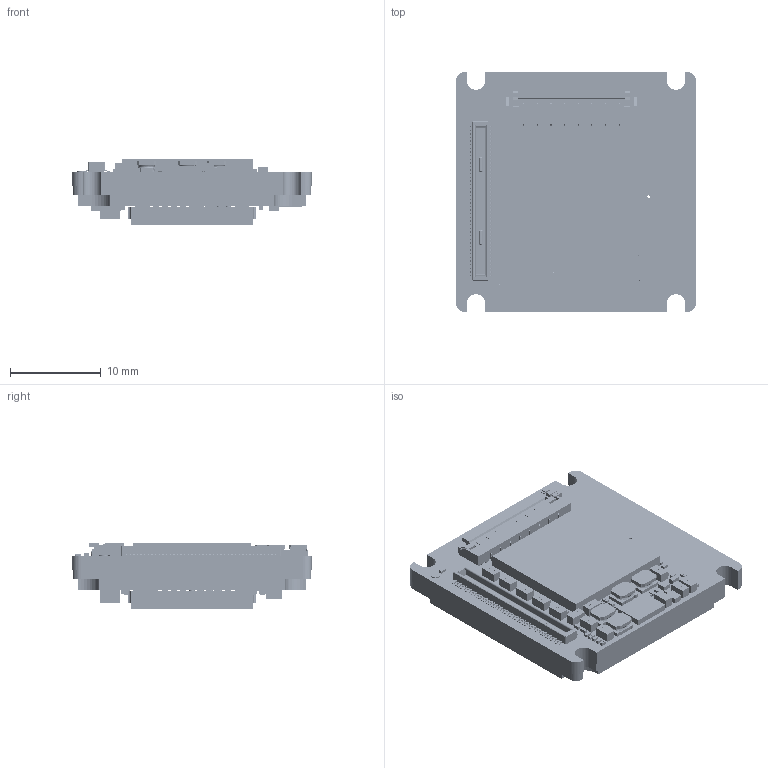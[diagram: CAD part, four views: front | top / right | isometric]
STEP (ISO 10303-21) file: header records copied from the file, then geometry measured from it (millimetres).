
FILE_DESCRIPTION (( 'STEP AP214' ), '1' );
FILE_NAME ('Alvium-CSI2-Bare-Board-IMX14x14.STEP', '2022-10-18T12:59:22', ( '' ), ( '' ), 'SwSTEP 2.0', 'SolidWorks 2021', '' );
FILE_SCHEMA (( 'AUTOMOTIVE_DESIGN' ));
Length unit declared in the file: millimetre
Products named in the file (1): Alvium-CSI2-Bare-Board-IMX14x14
Bounding box: 26.4 x 26.4 x 7.3 mm (x, y, z)
Surface area: 4100.1 mm2 (no closed solid volume)
Topology: 0 solids, 156 shells, 9925 faces, 25420 edges, 16734 vertices
Faces by surface type: plane 4920, bspline 4129, cylinder 844, torus 28, cone 4
Entity records: 643830 total; most frequent: CARTESIAN_POINT 320365, ORIENTED_EDGE 50840, DIRECTION 30412, EDGE_CURVE 25420, VERTEX_POINT 16734, VECTOR 15370, LINE 15370, EDGE_LOOP 10870
